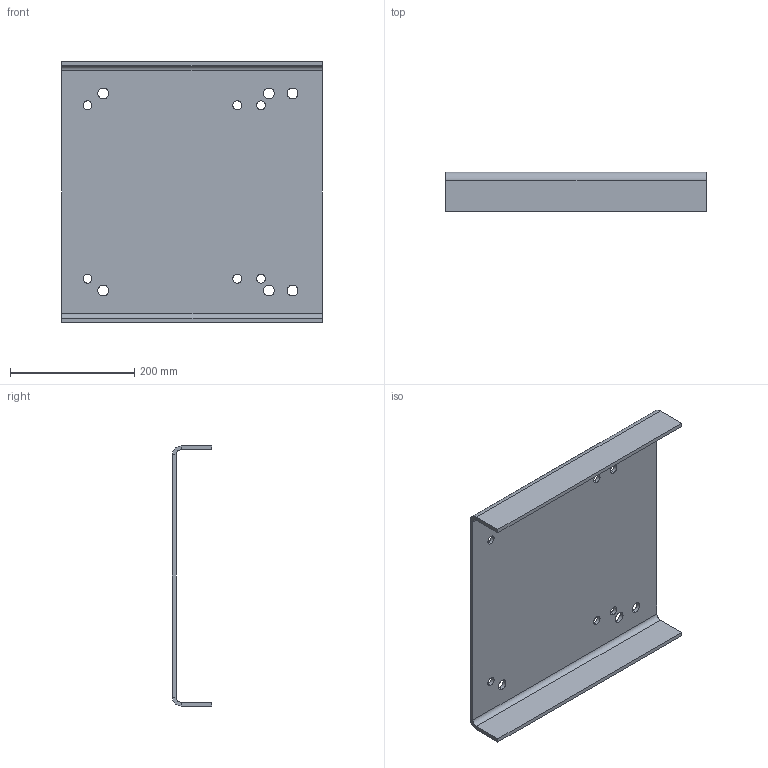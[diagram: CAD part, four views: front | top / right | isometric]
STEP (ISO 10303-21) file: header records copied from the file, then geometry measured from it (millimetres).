
FILE_DESCRIPTION (( 'STEP AP203' ), '1' );
FILE_NAME ('MBP-284_326.STEP', '2009-07-23T15:19:14', ( 'Chris McCoy' ), ( 'Magnaloy Coupling Co' ), 'SwSTEP 2.0', 'SolidWorks 2009', '' );
FILE_SCHEMA (( 'CONFIG_CONTROL_DESIGN' ));
Length unit declared in the file: inch
Products named in the file (1): MBP-284_326
Bounding box: 419.1 x 63.5 x 419.1 mm (x, y, z)
Volume: 1378934.1 mm3; surface area: 450082.8 mm2
Topology: 1 solids, 1 shells, 46 faces, 116 edges, 72 vertices
Faces by surface type: cylinder 28, plane 18
Entity records: 1515 total; most frequent: DIRECTION 266, CARTESIAN_POINT 235, ORIENTED_EDGE 232, EDGE_CURVE 116, AXIS2_PLACEMENT_3D 103, VERTEX_POINT 72, EDGE_LOOP 70, VECTOR 60
